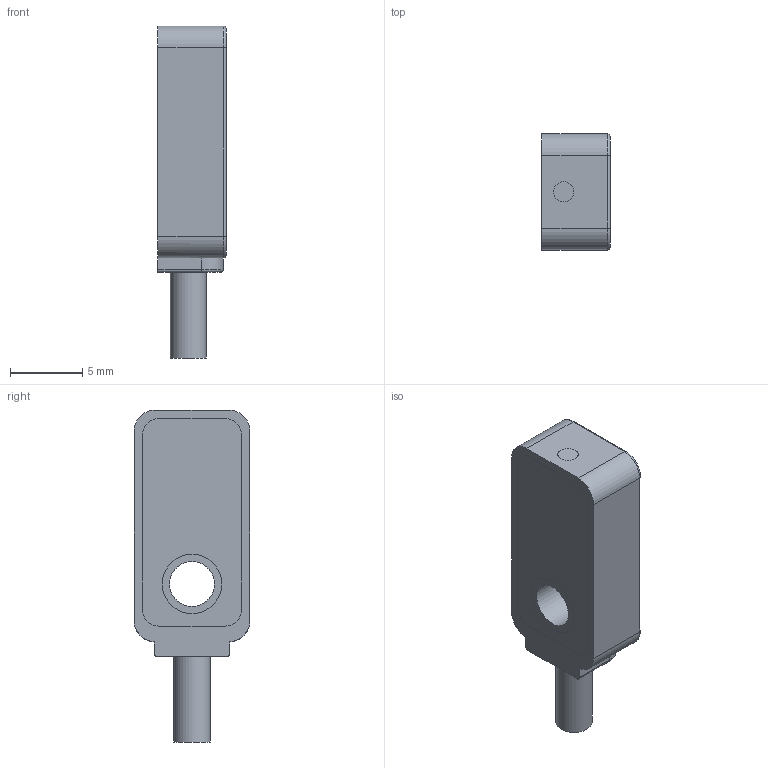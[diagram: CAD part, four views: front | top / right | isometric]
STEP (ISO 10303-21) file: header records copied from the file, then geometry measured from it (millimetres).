
FILE_DESCRIPTION( ( 'Unknown' ), '1' );
FILE_NAME( '//baumernet.org/ch01apps/SolidEdge/Models/Dokumentationen/Induktiv/IxFx 08/Vereinfachte Modelle/Neutralformate/IFFM 08xxx7A6_L.stp', 'Unknown', ( 'Unknown' ), ( 'Unknown' ), 'PSStep 14.0', 'Unknown', ' ' );
FILE_SCHEMA( ( 'AUTOMOTIVE_DESIGN { 1 0 10303 214 1 1 1 1 }' ) );
Length unit declared in the file: millimetre
Products named in the file (1): 156366
Bounding box: 4.7 x 8 x 22.9 mm (x, y, z)
Volume: 587.9 mm3; surface area: 563.1 mm2
Topology: 1 solids, 1 shells, 52 faces, 120 edges, 76 vertices
Faces by surface type: cylinder 23, plane 21, torus 6, cone 2
Full cylindrical faces by diameter (mm): 1.4 x1, 2.5 x1, 3.1 x1, 4.1 x1, 6.4 x1, 6.5 x1
Entity records: 1804 total; most frequent: DIRECTION 266, CARTESIAN_POINT 239, ORIENTED_EDGE 216, EDGE_CURVE 108, AXIS2_PLACEMENT_3D 107, VERTEX_POINT 72, EDGE_LOOP 68, FACE_OUTER_BOUND 58
